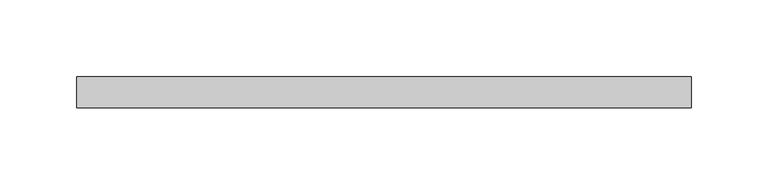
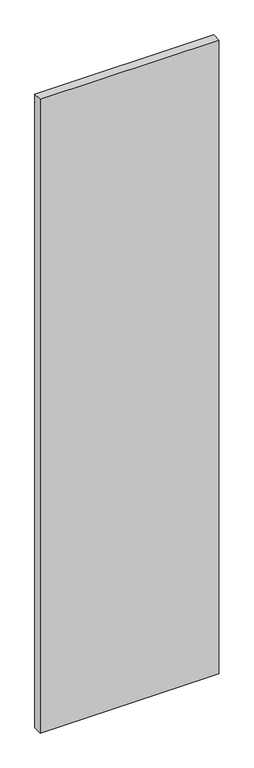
"""IFC4 building model written with IfcOpenShell, lengths in millimetres: proxy geometry, КНАУФ-Файерборд : КНАУФ-Файерборд."""

from ifc_helpers import new_model, si_unit, origin, origin_with_axes, place, context, project, spatial, polyline, outline, extrude, source, transform, mapped, element, save


def generic_models_afc5f548(model_context):
    return source(origin(), model_context, "Body", "SweptSolid", [
        extrude(outline(polyline([(200.0, 0.0), (-200.0, 0.0), (-200.0, 20.0), (200.0, 20.0), (200.0, 0.0)])), origin_with_axes(), (0.0, 0.0, 1.0), 1500.0),
    ])


if __name__ == "__main__":
    model = new_model("IFC4")
    model_context = context("Model", 3, world=origin())
    ifc_project = project(units=[si_unit("LENGTHUNIT", "METRE", prefix="MILLI")], contexts=[model_context])
    site = spatial("IfcSite", under=ifc_project)
    building = spatial("IfcBuilding", under=site)
    placement = place(None, origin())
    generic_models_shape = generic_models_afc5f548(model_context)
    element("IfcBuildingElementProxy", 1, Name="КНАУФ-Файерборд : КНАУФ-Файерборд", ObjectType="КНАУФ-Файерборд : КНАУФ-Файерборд", at=placement, inside=building, context=model_context, shape_type="MappedRepresentation", body=[
        mapped(generic_models_shape, transform((0.0, 0.0, 0.0), x_axis=(1.0, 0.0, 0.0), y_axis=(0.0, 1.0, 0.0), z_axis=(0.0, 0.0, 1.0))),
    ])
    save(model, "model.ifc")
